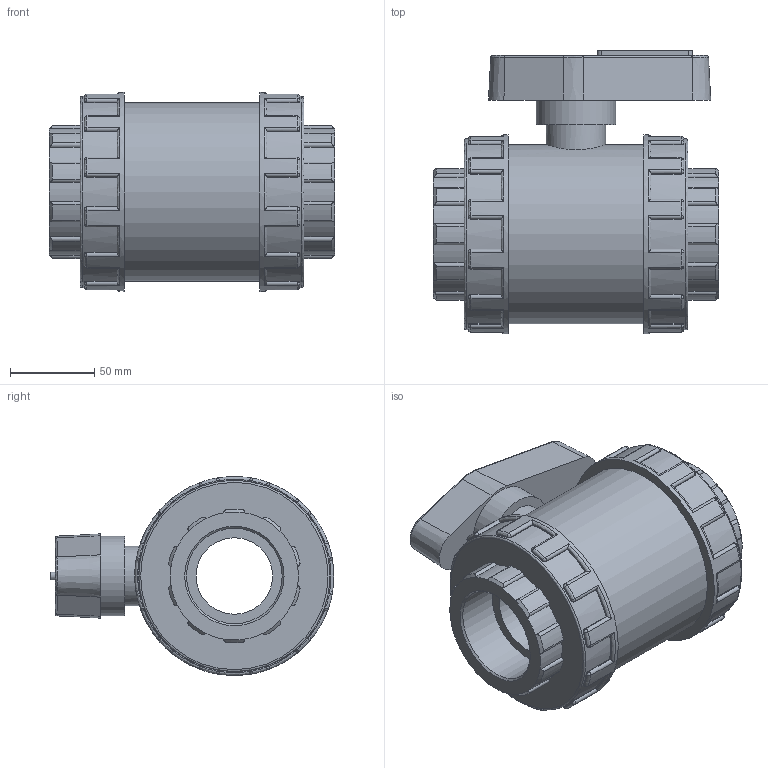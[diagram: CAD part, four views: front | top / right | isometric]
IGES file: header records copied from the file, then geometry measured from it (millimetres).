
Global section: file name: 11151020.ipt; native system: Autodesk Inventor 2015; preprocessor: unknown; author: KIM; date: 20171207.170236; units: millimetre
Bounding box: 169 x 168.18 x 118 mm (x, y, z)
Volume: 1266342.1 mm3; surface area: 122857.3 mm2
Topology: 1 solids, 1 shells, 434 faces, 1085 edges, 662 vertices
Faces by surface type: cylinder 189, plane 114, revolution 59, sphere 48, cone 24
Full cylindrical faces by diameter (mm): 35.4 x1, 47.2 x1, 106.2 x1, 113.28 x2, 118 x2
